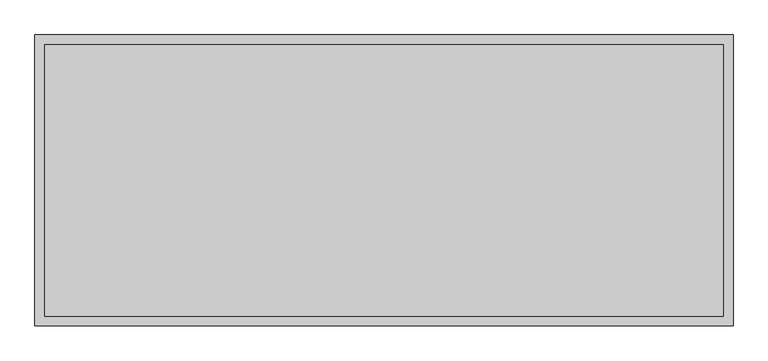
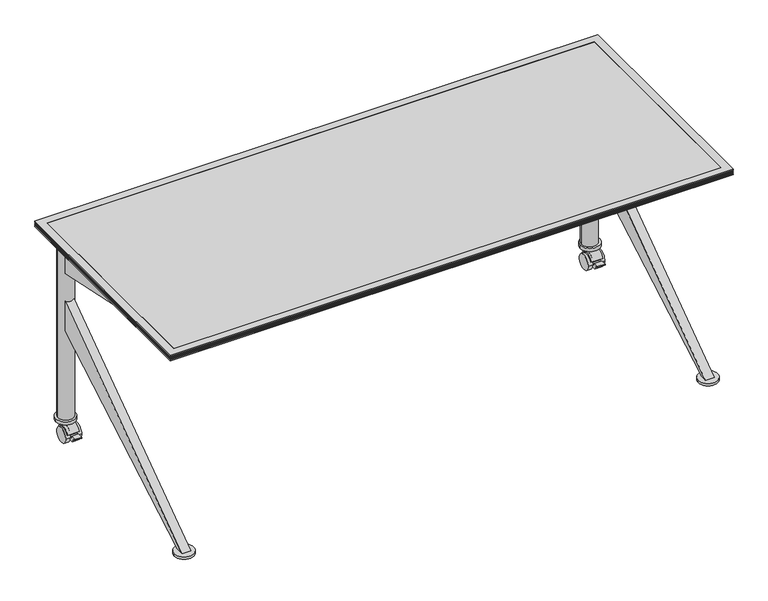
"""IFC4 building model written with IfcOpenShell, lengths in millimetres: furniture geometry, Coalesse_AM_Table_Conference_Ballet_Rectangular_KBase : Folding - 72L x 30W."""

from ifc_helpers import new_model, si_unit, point, frame, frame_2d, origin, origin_with_axes, place, context, project, spatial, polyline, circle_curve, trimmed, segment, composite_curve, outline, extrude, faceted_brep, source, transform, mapped, element, save


def furniture_384ca9b4(model_context):
    return source(origin(), model_context, "Body", "SolidModel", [
        extrude(outline(composite_curve([segment(trimmed(circle_curve(frame_2d((-851.8092495, -349.25)), 25.4), [point((-877.2092495, -349.25))], [point((-826.4092495, -349.25))], False, "CARTESIAN"), True, "CONTINUOUS"), segment(trimmed(circle_curve(frame_2d((-851.8092495, -349.25)), 25.4), [point((-826.4092495, -349.25))], [point((-877.2092495, -349.25))], False, "CARTESIAN"), True, "CONTINUOUS")], self_intersect=False)), origin_with_axes(), (0.0, 0.0, 1.0), 4.2936144),
        extrude(outline(composite_curve([segment(trimmed(circle_curve(frame_2d((851.0624629, -349.25)), 25.4), [point((825.6624629, -349.25))], [point((876.4624629, -349.25))], False, "CARTESIAN"), True, "CONTINUOUS"), segment(trimmed(circle_curve(frame_2d((851.0624629, -349.25)), 25.4), [point((876.4624629, -349.25))], [point((825.6624629, -349.25))], False, "CARTESIAN"), True, "CONTINUOUS")], self_intersect=False)), origin_with_axes(), (0.0, 0.0, 1.0), 4.2936144),
        extrude(outline(composite_curve([segment(polyline([(325.5604217, 14.7931869), (322.6491351, 16.4051117)]), True, "CONTINUOUS"), segment(trimmed(circle_curve(frame_2d((299.2336856, 24.9907393)), 24.9398531), [point((322.6491351, 16.4051117))], [point((276.7459564, 35.7749086))], True, "CARTESIAN"), True, "CONTINUOUS"), segment(polyline([(276.7459564, 35.7749086), (273.3203751, 36.8601197)]), True, "CONTINUOUS"), segment(trimmed(circle_curve(frame_2d((298.5646326, 26.7032164)), 27.2109394), [point((273.3203751, 36.8601197))], [point((310.1847122, 51.3082762))], False, "CARTESIAN"), True, "CONTINUOUS"), segment(trimmed(circle_curve(frame_2d((300.1211664, 25.8930561)), 27.3351124), [point((310.1847122, 51.3082762))], [point((325.5604217, 35.8956886))], False, "CARTESIAN"), True, "CONTINUOUS"), segment(trimmed(circle_curve(frame_2d((298.7258895, 25.3444377)), 28.8343721), [point((325.5604217, 35.8956886))], [point((325.5604217, 14.7931869))], False, "CARTESIAN"), True, "CONTINUOUS")], self_intersect=False)), frame((831.0279182, 0.0, 0.0), z_axis=(1.0, 0.0, 0.0), x_axis=(0.0, 1.0, 0.0)), (0.0, 0.0, 1.0), 37.985857),
        extrude(outline(composite_curve([segment(trimmed(circle_curve(frame_2d((299.2336856, 24.9907393)), 24.9398531), [point((274.2938325, 24.9907393))], [point((324.1735388, 24.9907393))], False, "CARTESIAN"), True, "CONTINUOUS"), segment(trimmed(circle_curve(frame_2d((299.2336856, 24.9907393)), 24.9398531), [point((324.1735388, 24.9907393))], [point((274.2938325, 24.9907393))], False, "CARTESIAN"), True, "CONTINUOUS")], self_intersect=False)), frame((821.8801992, 0.0, 0.0), z_axis=(1.0, 0.0, 0.0), x_axis=(0.0, 1.0, 0.0)), (0.0, 0.0, 1.0), 14.732),
        extrude(outline(composite_curve([segment(polyline([(310.1847122, 63.5225277), (325.5604217, 63.5225277), (325.5604217, 35.8956886)]), True, "CONTINUOUS"), segment(trimmed(circle_curve(frame_2d((298.7258895, 25.3444377)), 28.8343721), [point((325.5604217, 35.8956886))], [point((325.5604217, 14.7931869))], False, "CARTESIAN"), True, "CONTINUOUS"), segment(polyline([(325.5604217, 14.7931869), (312.095607, 22.2484025), (309.0197341, 16.6930892)]), True, "CONTINUOUS"), segment(trimmed(circle_curve(frame_2d((299.327305, 25.0010719)), 12.7658043), [point((309.0197341, 16.6930892))], [point((289.0624455, 17.4117096))], False, "CARTESIAN"), True, "CONTINUOUS"), segment(polyline([(289.0624455, 17.4117096), (263.293848, 17.4117096), (254.3223524, 31.7691038), (247.5969156, 31.7691038), (247.5969156, 35.1210973), (266.6469156, 35.1210973), (266.6469156, 25.0010719), (285.9362269, 25.0010719), (288.1998286, 32.1463658), (273.3203751, 36.8601197)]), True, "CONTINUOUS"), segment(trimmed(circle_curve(frame_2d((298.5646326, 26.7032164)), 27.2109394), [point((273.3203751, 36.8601197))], [point((310.1847122, 51.3082762))], False, "CARTESIAN"), True, "CONTINUOUS"), segment(polyline([(310.1847122, 51.3082762), (310.1847122, 63.5225277)]), True, "CONTINUOUS")], self_intersect=False)), frame((836.6121992, 0.0, 0.0), z_axis=(1.0, 0.0, 0.0), x_axis=(0.0, 1.0, 0.0)), (0.0, 0.0, 1.0), 24.5934543),
        extrude(outline(composite_curve([segment(trimmed(circle_curve(frame_2d((299.2336856, 24.9907393)), 24.9398531), [point((274.2938325, 24.9907393))], [point((324.1735388, 24.9907393))], False, "CARTESIAN"), True, "CONTINUOUS"), segment(trimmed(circle_curve(frame_2d((299.2336856, 24.9907393)), 24.9398531), [point((324.1735388, 24.9907393))], [point((274.2938325, 24.9907393))], False, "CARTESIAN"), True, "CONTINUOUS")], self_intersect=False)), frame((861.2056535, 0.0, 0.0), z_axis=(1.0, 0.0, 0.0), x_axis=(0.0, 1.0, 0.0)), (0.0, 0.0, 1.0), 14.732),
        extrude(outline(composite_curve([segment(trimmed(circle_curve(frame_2d((851.7954026, 316.7212308)), 31.75), [point((883.5454026, 316.7212308))], [point((820.0454026, 316.7212308))], False, "CARTESIAN"), True, "CONTINUOUS"), segment(trimmed(circle_curve(frame_2d((851.7954026, 316.7212308)), 31.75), [point((820.0454026, 316.7212308))], [point((883.5454026, 316.7212308))], False, "CARTESIAN"), True, "CONTINUOUS")], self_intersect=False)), frame((0.0, 0.0, 62.0397209), z_axis=(0.0, 0.0, 1.0), x_axis=(1.0, 0.0, 0.0)), (0.0, 0.0, 1.0), 10.7840801),
        extrude(outline(composite_curve([segment(polyline([(325.5604217, 14.7931869), (322.6491351, 16.4051117)]), True, "CONTINUOUS"), segment(trimmed(circle_curve(frame_2d((299.2336856, 24.9907393)), 24.9398531), [point((322.6491351, 16.4051117))], [point((276.7459564, 35.7749086))], True, "CARTESIAN"), True, "CONTINUOUS"), segment(polyline([(276.7459564, 35.7749086), (273.3203751, 36.8601197)]), True, "CONTINUOUS"), segment(trimmed(circle_curve(frame_2d((298.5646326, 26.7032164)), 27.2109394), [point((273.3203751, 36.8601197))], [point((310.1847122, 51.3082762))], False, "CARTESIAN"), True, "CONTINUOUS"), segment(trimmed(circle_curve(frame_2d((300.1211664, 25.8930561)), 27.3351124), [point((310.1847122, 51.3082762))], [point((325.5604217, 35.8956886))], False, "CARTESIAN"), True, "CONTINUOUS"), segment(trimmed(circle_curve(frame_2d((298.7258895, 25.3444377)), 28.8343721), [point((325.5604217, 35.8956886))], [point((325.5604217, 14.7931869))], False, "CARTESIAN"), True, "CONTINUOUS")], self_intersect=False)), frame((-870.4010267, 0.0, 0.0), z_axis=(1.0, 0.0, 0.0), x_axis=(0.0, 1.0, 0.0)), (0.0, 0.0, 1.0), 37.7563315),
        extrude(outline(composite_curve([segment(trimmed(circle_curve(frame_2d((299.2336856, 24.9907393)), 24.9398531), [point((274.2938325, 24.9907393))], [point((324.1735388, 24.9907393))], False, "CARTESIAN"), True, "CONTINUOUS"), segment(trimmed(circle_curve(frame_2d((299.2336856, 24.9907393)), 24.9398531), [point((324.1735388, 24.9907393))], [point((274.2938325, 24.9907393))], False, "CARTESIAN"), True, "CONTINUOUS")], self_intersect=False)), frame((-838.7822707, 0.0, 0.0), z_axis=(1.0, 0.0, 0.0), x_axis=(0.0, 1.0, 0.0)), (0.0, 0.0, 1.0), 14.732),
        extrude(outline(composite_curve([segment(polyline([(310.1847122, 63.5225277), (325.5604217, 63.5225277), (325.5604217, 35.8956886)]), True, "CONTINUOUS"), segment(trimmed(circle_curve(frame_2d((298.7258895, 25.3444377)), 28.8343721), [point((325.5604217, 35.8956886))], [point((325.5604217, 14.7931869))], False, "CARTESIAN"), True, "CONTINUOUS"), segment(polyline([(325.5604217, 14.7931869), (312.095607, 22.2484025), (309.0197341, 16.6930892)]), True, "CONTINUOUS"), segment(trimmed(circle_curve(frame_2d((299.327305, 25.0010719)), 12.7658043), [point((309.0197341, 16.6930892))], [point((289.0624455, 17.4117096))], False, "CARTESIAN"), True, "CONTINUOUS"), segment(polyline([(289.0624455, 17.4117096), (263.293848, 17.4117096), (254.3223524, 31.7691038), (247.5969156, 31.7691038), (247.5969156, 35.1210973), (266.6469156, 35.1210973), (266.6469156, 25.0010719), (285.9362269, 25.0010719), (288.1998286, 32.1463658), (273.3203751, 36.8601197)]), True, "CONTINUOUS"), segment(trimmed(circle_curve(frame_2d((298.5646326, 26.7032164)), 27.2109394), [point((273.3203751, 36.8601197))], [point((310.1847122, 51.3082762))], False, "CARTESIAN"), True, "CONTINUOUS"), segment(polyline([(310.1847122, 51.3082762), (310.1847122, 63.5225277)]), True, "CONTINUOUS")], self_intersect=False)), frame((-861.2056535, 0.0, 0.0), z_axis=(1.0, 0.0, 0.0), x_axis=(0.0, 1.0, 0.0)), (0.0, 0.0, 1.0), 22.4233828),
        extrude(outline(composite_curve([segment(trimmed(circle_curve(frame_2d((299.2336856, 24.9907393)), 24.9398531), [point((274.2938325, 24.9907393))], [point((324.1735388, 24.9907393))], False, "CARTESIAN"), True, "CONTINUOUS"), segment(trimmed(circle_curve(frame_2d((299.2336856, 24.9907393)), 24.9398531), [point((324.1735388, 24.9907393))], [point((274.2938325, 24.9907393))], False, "CARTESIAN"), True, "CONTINUOUS")], self_intersect=False)), frame((-875.9376535, 0.0, 0.0), z_axis=(1.0, 0.0, 0.0), x_axis=(0.0, 1.0, 0.0)), (0.0, 0.0, 1.0), 14.732),
        extrude(outline(composite_curve([segment(trimmed(circle_curve(frame_2d((-851.7954026, 316.7212308)), 31.75), [point((-883.5454026, 316.7212308))], [point((-820.0454026, 316.7212308))], False, "CARTESIAN"), True, "CONTINUOUS"), segment(trimmed(circle_curve(frame_2d((-851.7954026, 316.7212308)), 31.75), [point((-820.0454026, 316.7212308))], [point((-883.5454026, 316.7212308))], False, "CARTESIAN"), True, "CONTINUOUS")], self_intersect=False)), frame((0.0, 0.0, 62.0397209), z_axis=(0.0, 0.0, 1.0), x_axis=(1.0, 0.0, 0.0)), (0.0, 0.0, 1.0), 10.7840801),
        extrude(outline(composite_curve([segment(trimmed(circle_curve(frame_2d((-850.9003633, 317.5)), 25.4), [point((-876.3003633, 317.5))], [point((-825.5003633, 317.5))], False, "CARTESIAN"), True, "CONTINUOUS"), segment(trimmed(circle_curve(frame_2d((-850.9003633, 317.5)), 25.4), [point((-825.5003633, 317.5))], [point((-876.3003633, 317.5))], False, "CARTESIAN"), True, "CONTINUOUS")], self_intersect=False)), frame((0.0, 0.0, 72.823801), z_axis=(0.0, 0.0, 1.0), x_axis=(1.0, 0.0, 0.0)), (0.0, 0.0, 1.0), 625.6762232),
        extrude(outline(composite_curve([segment(trimmed(circle_curve(frame_2d((850.9003633, 317.5)), 25.4), [point((825.5003633, 317.5))], [point((876.3003633, 317.5))], False, "CARTESIAN"), True, "CONTINUOUS"), segment(trimmed(circle_curve(frame_2d((850.9003633, 317.5)), 25.4), [point((876.3003633, 317.5))], [point((825.5003633, 317.5))], False, "CARTESIAN"), True, "CONTINUOUS")], self_intersect=False)), frame((0.0, 0.0, 72.823801), z_axis=(0.0, 0.0, 1.0), x_axis=(1.0, 0.0, 0.0)), (0.0, 0.0, 1.0), 625.6762232),
        extrude(outline(polyline([(296.4656271, 577.7388634), (-269.874901, 698.5000242), (-238.124901, 698.5000242), (296.4656271, 641.3500242), (296.4656271, 577.7388634)])), frame((-865.2007845, 0.0, 0.0), z_axis=(1.0, 0.0, 0.0), x_axis=(0.0, 1.0, 0.0)), (0.0, 0.0, 1.0), 28.5877899),
        extrude(outline(polyline([(296.4656271, 381.0), (-338.1375951, 12.7), (-360.3624013, 12.7), (296.4656271, 482.7111245), (296.4656271, 381.0)])), frame((-865.2007845, 0.0, 0.0), z_axis=(1.0, 0.0, 0.0), x_axis=(0.0, 1.0, 0.0)), (0.0, 0.0, 1.0), 28.5877899),
        extrude(outline(polyline([(296.4656271, 577.7388634), (-269.874901, 698.5000242), (-238.124901, 698.5000242), (296.4656271, 641.3500242), (296.4656271, 577.7388634)])), frame((836.6121992, 0.0, 0.0), z_axis=(1.0, 0.0, 0.0), x_axis=(0.0, 1.0, 0.0)), (0.0, 0.0, 1.0), 28.575),
        extrude(outline(polyline([(296.4656271, 381.0), (-338.1375951, 12.7), (-360.3624013, 12.7), (296.4656271, 482.7111245), (296.4656271, 381.0)])), frame((836.6121992, 0.0, 0.0), z_axis=(1.0, 0.0, 0.0), x_axis=(0.0, 1.0, 0.0)), (0.0, 0.0, 1.0), 28.575),
        extrude(outline(composite_curve([segment(trimmed(circle_curve(frame_2d((-851.8092495, -349.25)), 31.75), [point((-883.5592495, -349.25))], [point((-820.0592495, -349.25))], False, "CARTESIAN"), True, "CONTINUOUS"), segment(trimmed(circle_curve(frame_2d((-851.8092495, -349.25)), 31.75), [point((-820.0592495, -349.25))], [point((-883.5592495, -349.25))], False, "CARTESIAN"), True, "CONTINUOUS")], self_intersect=False)), frame((0.0, 0.0, 4.2936144), z_axis=(0.0, 0.0, 1.0), x_axis=(1.0, 0.0, 0.0)), (0.0, 0.0, 1.0), 8.4063856),
        extrude(outline(composite_curve([segment(trimmed(circle_curve(frame_2d((851.0624629, -349.25)), 31.75), [point((819.3124629, -349.25))], [point((882.8124629, -349.25))], False, "CARTESIAN"), True, "CONTINUOUS"), segment(trimmed(circle_curve(frame_2d((851.0624629, -349.25)), 31.75), [point((882.8124629, -349.25))], [point((819.3124629, -349.25))], False, "CARTESIAN"), True, "CONTINUOUS")], self_intersect=False)), frame((0.0, 0.0, 4.2936144), z_axis=(0.0, 0.0, 1.0), x_axis=(1.0, 0.0, 0.0)), (0.0, 0.0, 1.0), 8.4063856),
        faceted_brep([(-914.4003633, 381.0, 704.85), (-889.0003876, 355.6000242, 698.5000242), (-889.0003876, -355.5999516, 698.5000242), (-914.4003633, -380.9999273, 704.85), (-914.4003633, 381.0, 708.0250242), (-914.4003633, -380.9999273, 708.0250242), (-911.2253755, 377.8250121, 709.6125), (-911.2253755, -377.8249394, 709.6125), (-914.4003633, 381.0, 711.1999758), (-914.4003633, -380.9999273, 711.1999758), (-911.2253755, 377.8250121, 712.7875242), (-911.2253755, -377.8249394, 712.7875242), (-914.4003633, 381.0, 714.375), (-914.4003633, -380.9999273, 714.375), (-911.2253755, 377.8250121, 715.9624758), (-911.2253755, -377.8249394, 715.9624758), (-914.4003633, 381.0, 717.5500242), (-914.4003633, -380.9999273, 717.5500242), (-911.2253755, 377.8250121, 719.1375), (-911.2253755, -377.8249394, 719.1375), (-914.4003633, 381.0, 720.7249758), (-914.4003633, -380.9999273, 720.7249758), (-914.4003633, 381.0, 723.9), (-914.4003633, -380.9999273, 723.9), (-889.0003876, 355.6000242, 723.9), (-889.0003876, -355.5999516, 723.9), (888.9998062, -355.5999516, 698.5000242), (914.399782, -380.9999273, 704.85), (914.399782, -380.9999273, 708.0250242), (911.2247941, -377.8249394, 709.6125), (914.399782, -380.9999273, 711.1999758), (911.2247941, -377.8249394, 712.7875242), (914.399782, -380.9999273, 714.375), (911.2247941, -377.8249394, 715.9624758), (914.399782, -380.9999273, 717.5500242), (911.2247941, -377.8249394, 719.1375), (914.399782, -380.9999273, 720.7249758), (914.399782, -380.9999273, 723.9), (888.9998062, -355.5999516, 723.9), (888.9998062, 355.6000242, 698.5000242), (914.399782, 381.0, 704.85), (914.399782, 381.0, 708.0250242), (911.2247941, 377.8250121, 709.6125), (914.399782, 381.0, 711.1999758), (911.2247941, 377.8250121, 712.7875242), (914.399782, 381.0, 714.375), (911.2247941, 377.8250121, 715.9624758), (914.399782, 381.0, 717.5500242), (911.2247941, 377.8250121, 719.1375), (914.399782, 381.0, 720.7249758), (914.399782, 381.0, 723.9), (888.9998062, 355.6000242, 723.9)], [[[0, 1, 2, 3]], [[4, 0, 3, 5]], [[6, 4, 5, 7]], [[8, 6, 7, 9]], [[10, 8, 9, 11]], [[12, 10, 11, 13]], [[14, 12, 13, 15]], [[16, 14, 15, 17]], [[18, 16, 17, 19]], [[20, 18, 19, 21]], [[22, 20, 21, 23]], [[1, 24, 25, 2]], [[3, 2, 26, 27]], [[5, 3, 27, 28]], [[7, 5, 28, 29]], [[9, 7, 29, 30]], [[11, 9, 30, 31]], [[13, 11, 31, 32]], [[15, 13, 32, 33]], [[17, 15, 33, 34]], [[19, 17, 34, 35]], [[21, 19, 35, 36]], [[23, 21, 36, 37]], [[2, 25, 38, 26]], [[27, 26, 39, 40]], [[28, 27, 40, 41]], [[29, 28, 41, 42]], [[30, 29, 42, 43]], [[31, 30, 43, 44]], [[32, 31, 44, 45]], [[33, 32, 45, 46]], [[34, 33, 46, 47]], [[35, 34, 47, 48]], [[36, 35, 48, 49]], [[37, 36, 49, 50]], [[26, 38, 51, 39]], [[40, 39, 1, 0]], [[41, 40, 0, 4]], [[42, 41, 4, 6]], [[43, 42, 6, 8]], [[44, 43, 8, 10]], [[45, 44, 10, 12]], [[46, 45, 12, 14]], [[47, 46, 14, 16]], [[48, 47, 16, 18]], [[49, 48, 18, 20]], [[50, 49, 20, 22]], [[23, 37, 50, 22], [24, 51, 38, 25]], [[39, 51, 24, 1]]]),
        extrude(outline(polyline([(888.9998062, 355.6000242), (888.9998062, -355.5999516), (-889.0003876, -355.5999516), (-889.0003876, 355.6000242), (888.9998062, 355.6000242)])), frame((0.0, 0.0, 704.85), z_axis=(0.0, 0.0, 1.0), x_axis=(1.0, 0.0, 0.0)), (0.0, 0.0, 1.0), 19.05),
    ])


if __name__ == "__main__":
    model = new_model("IFC4")
    model_context = context("Model", 3, world=origin())
    ifc_project = project(units=[si_unit("LENGTHUNIT", "METRE", prefix="MILLI")], contexts=[model_context])
    site = spatial("IfcSite", under=ifc_project)
    building = spatial("IfcBuilding", under=site)
    placement = place(None, origin())
    furniture_shape = furniture_384ca9b4(model_context)
    element("IfcFurniture", 1, ObjectType="Coalesse_AM_Table_Conference_Ballet_Rectangular_KBase : Folding - 72L x 30W", at=placement, inside=building, context=model_context, shape_type="MappedRepresentation", body=[
        mapped(furniture_shape, transform((0.0, 0.0, 0.0), x_axis=(1.0, 0.0, 0.0), y_axis=(0.0, 1.0, 0.0), z_axis=(0.0, 0.0, 1.0))),
    ])
    save(model, "model.ifc")
